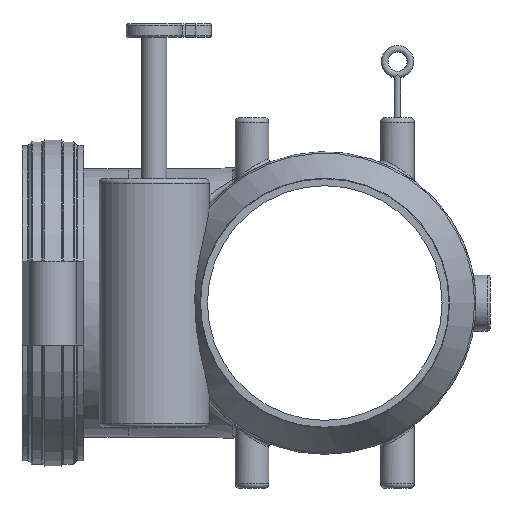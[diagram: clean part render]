
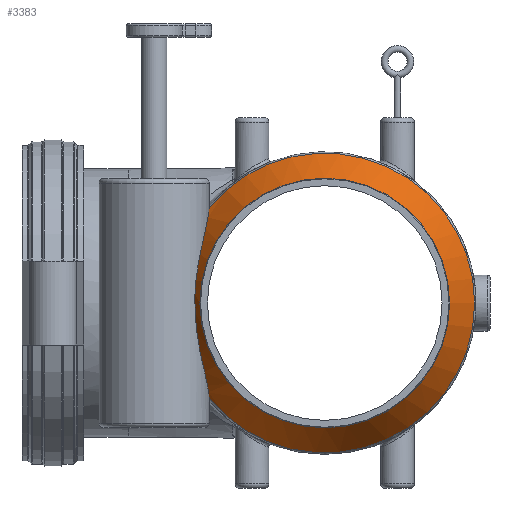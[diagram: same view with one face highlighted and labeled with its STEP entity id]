
A CAD part, left-side view. The second image highlights one B-rep face of the part: STEP entity #3383.
In plain terms, the highlighted conical face has half-angle 30 degrees and reference radius 155.808 mm.
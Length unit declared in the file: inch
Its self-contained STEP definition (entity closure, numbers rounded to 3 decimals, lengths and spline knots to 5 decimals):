
#80=CONICAL_SURFACE('',#3758,6.13417,0.524);
#368=FACE_OUTER_BOUND('',#567,.T.);
#567=EDGE_LOOP('',(#2833,#2834,#2835,#2836,#2837,#2838,#2839,#2840));
#779=CIRCLE('',#3759,5.57546);
#780=CIRCLE('',#3760,5.57546);
#781=CIRCLE('',#3761,6.69289);
#782=CIRCLE('',#3762,6.69289);
#783=CIRCLE('',#3763,5.57546);
#954=LINE('',#7700,#1092);
#1092=VECTOR('',#4647,6.13417);
#1191=B_SPLINE_CURVE_WITH_KNOTS('',3,(#7512,#7513,#7514,#7515,#7516,#7517,
#7518,#7519,#7520,#7521,#7522,#7523,#7524,#7525,#7526,#7527,#7528,#7529,
#7530,#7531,#7532,#7533,#7534,#7535,#7536,#7537,#7538,#7539,#7540,#7541),
 .UNSPECIFIED.,.F.,.F.,(4,2,2,2,2,2,2,2,2,2,2,2,2,2,4),(20.17594,
20.59509,23.38384,26.1726,27.56698,28.96136,
30.35574,31.75012,33.1445,34.53888,35.93326,
37.32764,40.1164,42.90516,43.3243),
 .UNSPECIFIED.);
#1436=VERTEX_POINT('',#7502);
#1437=VERTEX_POINT('',#7511);
#1461=VERTEX_POINT('',#7694);
#1462=VERTEX_POINT('',#7695);
#1463=VERTEX_POINT('',#7697);
#1464=VERTEX_POINT('',#7699);
#1878=EDGE_CURVE('',#1437,#1436,#1191,.T.);
#1932=EDGE_CURVE('',#1461,#1462,#779,.T.);
#1933=EDGE_CURVE('',#1463,#1461,#780,.T.);
#1934=EDGE_CURVE('',#1463,#1464,#954,.T.);
#1935=EDGE_CURVE('',#1464,#1437,#781,.T.);
#1936=EDGE_CURVE('',#1436,#1464,#782,.T.);
#1937=EDGE_CURVE('',#1462,#1463,#783,.T.);
#2833=ORIENTED_EDGE('',*,*,#1932,.F.);
#2834=ORIENTED_EDGE('',*,*,#1933,.F.);
#2835=ORIENTED_EDGE('',*,*,#1934,.T.);
#2836=ORIENTED_EDGE('',*,*,#1935,.T.);
#2837=ORIENTED_EDGE('',*,*,#1878,.T.);
#2838=ORIENTED_EDGE('',*,*,#1936,.T.);
#2839=ORIENTED_EDGE('',*,*,#1934,.F.);
#2840=ORIENTED_EDGE('',*,*,#1937,.F.);
#3383=ADVANCED_FACE('',(#368),#80,.T.);
#3758=AXIS2_PLACEMENT_3D('',#7693,#4641,#4642);
#3759=AXIS2_PLACEMENT_3D('',#7696,#4643,#4644);
#3760=AXIS2_PLACEMENT_3D('',#7698,#4645,#4646);
#3761=AXIS2_PLACEMENT_3D('',#7701,#4648,#4649);
#3762=AXIS2_PLACEMENT_3D('',#7702,#4650,#4651);
#3763=AXIS2_PLACEMENT_3D('',#7703,#4652,#4653);
#4641=DIRECTION('center_axis',(1.,0.,0.));
#4642=DIRECTION('ref_axis',(0.,1.,0.));
#4643=DIRECTION('center_axis',(-1.,0.,0.));
#4644=DIRECTION('ref_axis',(0.,0.,1.));
#4645=DIRECTION('center_axis',(-1.,0.,0.));
#4646=DIRECTION('ref_axis',(0.,0.,1.));
#4647=DIRECTION('',(0.866,-0.5,0.));
#4648=DIRECTION('center_axis',(-1.,0.,0.));
#4649=DIRECTION('ref_axis',(0.,0.,1.));
#4650=DIRECTION('center_axis',(-1.,0.,0.));
#4651=DIRECTION('ref_axis',(0.,0.,1.));
#4652=DIRECTION('center_axis',(-1.,0.,0.));
#4653=DIRECTION('ref_axis',(0.,0.,1.));
#7502=CARTESIAN_POINT('',(-6.11623,5.16275,-4.25921));
#7511=CARTESIAN_POINT('',(-6.11623,5.16275,4.25921));
#7512=CARTESIAN_POINT('Ctrl Pts',(-6.11623,5.16275,4.25921));
#7513=CARTESIAN_POINT('Ctrl Pts',(-6.15723,5.16469,4.21967));
#7514=CARTESIAN_POINT('Ctrl Pts',(-6.19681,5.16759,4.17988));
#7515=CARTESIAN_POINT('Ctrl Pts',(-6.48744,5.19545,3.8766));
#7516=CARTESIAN_POINT('Ctrl Pts',(-6.70695,5.2555,3.5808));
#7517=CARTESIAN_POINT('Ctrl Pts',(-7.07519,5.39861,2.93971));
#7518=CARTESIAN_POINT('Ctrl Pts',(-7.22352,5.48153,2.59417));
#7519=CARTESIAN_POINT('Ctrl Pts',(-7.39456,5.59234,2.05394));
#7520=CARTESIAN_POINT('Ctrl Pts',(-7.44314,5.62712,1.87014));
#7521=CARTESIAN_POINT('Ctrl Pts',(-7.52462,5.68874,1.49826));
#7522=CARTESIAN_POINT('Ctrl Pts',(-7.55752,5.71557,1.31019));
#7523=CARTESIAN_POINT('Ctrl Pts',(-7.60909,5.75894,0.93321));
#7524=CARTESIAN_POINT('Ctrl Pts',(-7.62776,5.77548,0.74429));
#7525=CARTESIAN_POINT('Ctrl Pts',(-7.65224,5.79737,0.36918));
#7526=CARTESIAN_POINT('Ctrl Pts',(-7.65805,5.80273,0.18299));
#7527=CARTESIAN_POINT('Ctrl Pts',(-7.65805,5.80273,-0.18299));
#7528=CARTESIAN_POINT('Ctrl Pts',(-7.65224,5.79737,-0.36918));
#7529=CARTESIAN_POINT('Ctrl Pts',(-7.62776,5.77548,-0.74429));
#7530=CARTESIAN_POINT('Ctrl Pts',(-7.60909,5.75894,-0.93321));
#7531=CARTESIAN_POINT('Ctrl Pts',(-7.55752,5.71557,-1.31019));
#7532=CARTESIAN_POINT('Ctrl Pts',(-7.52462,5.68874,-1.49826));
#7533=CARTESIAN_POINT('Ctrl Pts',(-7.44314,5.62712,-1.87014));
#7534=CARTESIAN_POINT('Ctrl Pts',(-7.39456,5.59234,-2.05394));
#7535=CARTESIAN_POINT('Ctrl Pts',(-7.22352,5.48153,-2.59417));
#7536=CARTESIAN_POINT('Ctrl Pts',(-7.07519,5.39861,-2.93971));
#7537=CARTESIAN_POINT('Ctrl Pts',(-6.70695,5.2555,-3.5808));
#7538=CARTESIAN_POINT('Ctrl Pts',(-6.48744,5.19545,-3.8766));
#7539=CARTESIAN_POINT('Ctrl Pts',(-6.19681,5.16759,-4.17988));
#7540=CARTESIAN_POINT('Ctrl Pts',(-6.15723,5.16469,-4.21967));
#7541=CARTESIAN_POINT('Ctrl Pts',(-6.11623,5.16275,-4.25921));
#7693=CARTESIAN_POINT('Origin',(-7.08396,0.,0.));
#7694=CARTESIAN_POINT('',(-8.05169,5.57546,0.));
#7695=CARTESIAN_POINT('',(-8.05169,0.,-5.57546));
#7696=CARTESIAN_POINT('Origin',(-8.05169,0.,0.));
#7697=CARTESIAN_POINT('',(-8.05169,-5.57546,0.));
#7698=CARTESIAN_POINT('Origin',(-8.05169,0.,0.));
#7699=CARTESIAN_POINT('',(-6.11623,-6.69289,0.));
#7700=CARTESIAN_POINT('',(-7.08396,-6.13417,0.));
#7701=CARTESIAN_POINT('Origin',(-6.11623,0.,0.));
#7702=CARTESIAN_POINT('Origin',(-6.11623,0.,0.));
#7703=CARTESIAN_POINT('Origin',(-8.05169,0.,0.));
